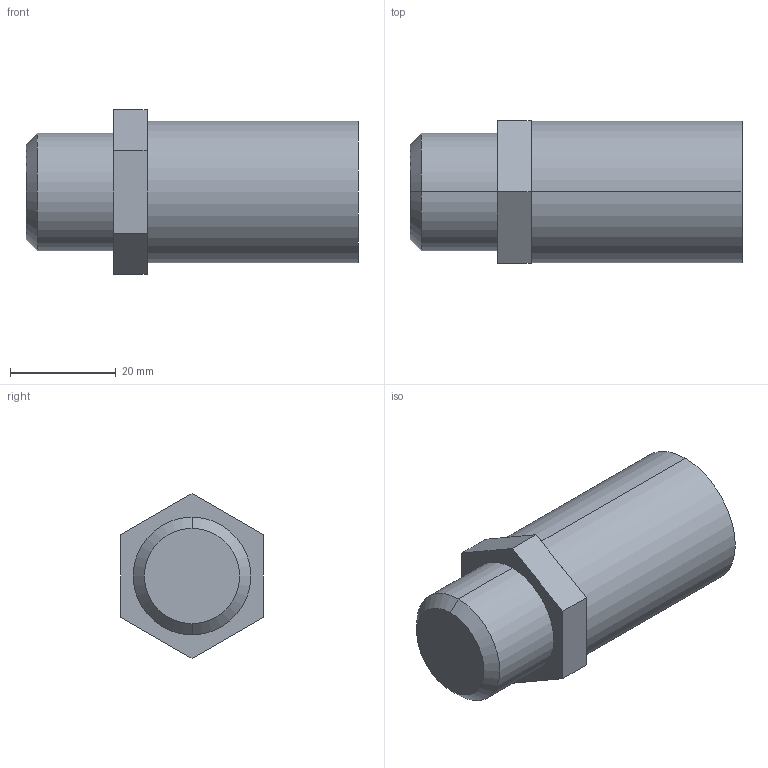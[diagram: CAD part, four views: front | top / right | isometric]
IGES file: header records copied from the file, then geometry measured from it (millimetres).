
Start section: SolidWorks IGES file using analytic representation for surfaces
Global section: file name: S:\Product Visuals\Defeatured Models and Parts Library\Parts Library IGES & STEP\Liquid Fittings\Front Mount liquid Fittings\Weldable\30LPM\Fitting Weldable 12.IGS; native system: SolidWorks 2012; preprocessor: SolidWorks 2012; author: rachel.dressel; date: 120926.161116; units: inch
Bounding box: 62.76 x 27 x 31.18 mm (x, y, z)
Volume: 32767.8 mm3; surface area: 6275.9 mm2
Topology: 1 solids, 1 shells, 16 faces, 34 edges, 22 vertices
Faces by surface type: plane 10, revolution 6
